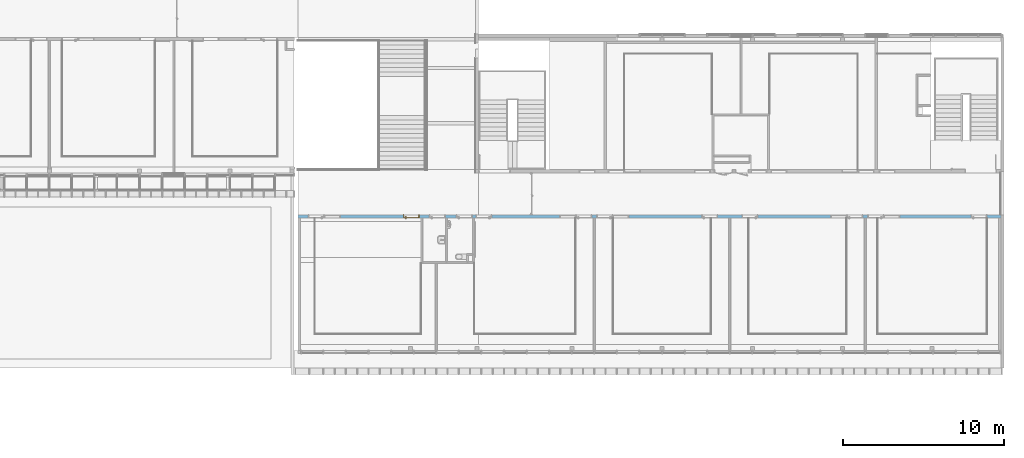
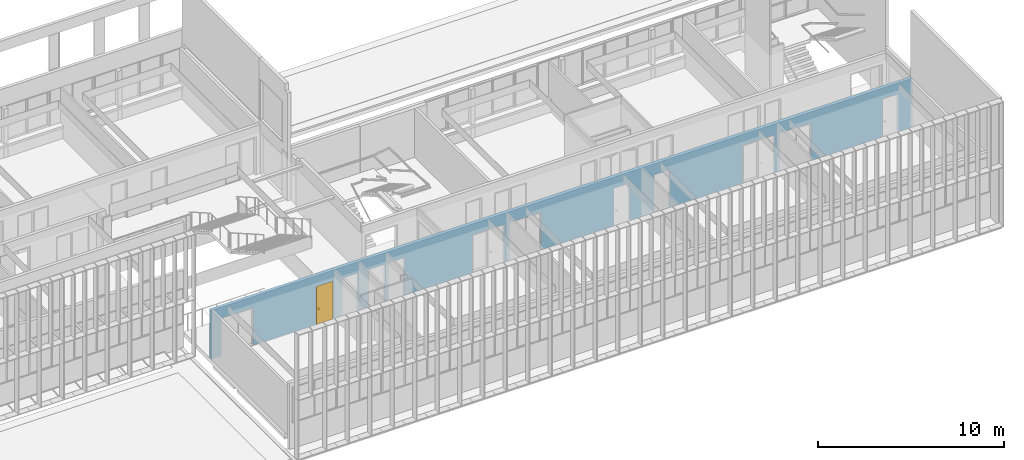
# One storey, part 75 of 106: 1 door, 18 openings, plus 1 element that does not belong to this part.
"""IFC2X3 building model written with IfcOpenShell, lengths in centimetres."""

from ifc_helpers import new_model, entity, si_unit, converted_unit, derived_unit, direction, frame, frame_2d, origin, place, context, subcontext, project, spatial, polyline, rectangle, extrude, clip, bounded_halfspace, faceted_brep, source, transform, mapped, material, material_list, layer, layer_set, layer_usage, type_object, type_shapes, element, fill, save


model = new_model("IFC2X3")

# Units and contexts
model_context = context("Model", 3, precision=0.001, world=origin(), true_north=direction((6.12303176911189e-17, 1.0)))
body_context = subcontext(model_context, "Body", "Model", "MODEL_VIEW")
ifc_project = project(units=[si_unit("LENGTHUNIT", "METRE", prefix="CENTI"), si_unit("AREAUNIT", "SQUARE_METRE"), si_unit("VOLUMEUNIT", "CUBIC_METRE"), converted_unit("PLANEANGLEUNIT", "DEGREE", entity("IfcRatioMeasure", 0.0174532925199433), si_unit("PLANEANGLEUNIT", "RADIAN"), dimensions=[0, 0, 0, 0, 0, 0, 0]), si_unit("MASSUNIT", "GRAM", prefix="KILO"), derived_unit("MASSDENSITYUNIT", [(si_unit("MASSUNIT", "GRAM", prefix="KILO"), 1), (si_unit("LENGTHUNIT", "METRE"), -3)]), si_unit("TIMEUNIT", "SECOND"), si_unit("FREQUENCYUNIT", "HERTZ"), si_unit("THERMODYNAMICTEMPERATUREUNIT", "DEGREE_CELSIUS"), derived_unit("THERMALTRANSMITTANCEUNIT", [(si_unit("MASSUNIT", "GRAM", prefix="KILO"), 1), (si_unit("THERMODYNAMICTEMPERATUREUNIT", "KELVIN"), -1), (si_unit("TIMEUNIT", "SECOND"), -3)]), derived_unit("VOLUMETRICFLOWRATEUNIT", [(si_unit("LENGTHUNIT", "METRE"), 3), (si_unit("TIMEUNIT", "SECOND"), -1)]), si_unit("ELECTRICCURRENTUNIT", "AMPERE"), si_unit("ELECTRICVOLTAGEUNIT", "VOLT"), si_unit("POWERUNIT", "WATT"), si_unit("FORCEUNIT", "NEWTON", prefix="KILO"), si_unit("ILLUMINANCEUNIT", "LUX"), si_unit("LUMINOUSFLUXUNIT", "LUMEN"), si_unit("LUMINOUSINTENSITYUNIT", "CANDELA"), derived_unit("USERDEFINED", [(si_unit("MASSUNIT", "GRAM", prefix="KILO"), -1), (si_unit("LENGTHUNIT", "METRE"), -2), (si_unit("TIMEUNIT", "SECOND"), 3), (si_unit("LUMINOUSFLUXUNIT", "LUMEN"), 1)]), derived_unit("LINEARVELOCITYUNIT", [(si_unit("LENGTHUNIT", "METRE"), 1), (si_unit("TIMEUNIT", "SECOND"), -1)]), si_unit("PRESSUREUNIT", "PASCAL"), derived_unit("USERDEFINED", [(si_unit("LENGTHUNIT", "METRE"), -2), (si_unit("MASSUNIT", "GRAM", prefix="KILO"), 1), (si_unit("TIMEUNIT", "SECOND"), -2)])], contexts=[model_context])

# Site, building, storey
site_placement = place(None, frame((-2781.94577612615, 7442.24238424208, 0.0)))
site = spatial("IfcSite", under=ifc_project, at=site_placement, Name="Default", CompositionType="ELEMENT")
building_placement = place(site_placement, origin())
building = spatial("IfcBuilding", under=site, at=building_placement, CompositionType="ELEMENT")
storey_placement = place(building_placement, frame((0.0, 0.0, 422.0)))
storey = spatial("IfcBuildingStorey", under=building, at=storey_placement, Name="Toiture - Cuisine", CompositionType="ELEMENT", Elevation=421.999999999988)

# Wall, openings, door
ifc_material_1 = material(Name="01 - Maçonnerie")
ifc_layer = layer(ifc_material_1, 20.0)
ifc_layer_set = layer_set([ifc_layer], Name="Mur de base:04 - Structure - béton - 20cm")
ifc_layer_usage = layer_usage(ifc_layer_set, "AXIS2", "NEGATIVE", 10.0)
wall_type = type_object("IfcWallType", Name="Mur de base:04 - Structure - béton - 20cm", PredefinedType="STANDARD", material=ifc_layer_set)
wall_placement = place(building_placement, frame((-4767.99987760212, -2200.15656731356, 422.0)))
wall = element("IfcWallStandardCase", 1, at=wall_placement, inside=storey, type_object=wall_type, material=ifc_layer_usage, Name="Mur de base:04 - Structure - béton - 20cm", ObjectType="Mur de base:04 - Structure - béton - 20cm", context=body_context, shape_type="Clipping", body=[
    clip(extrude(rectangle(XDim=4357.99999476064, YDim=19.9999999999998, at=frame_2d((2178.99999738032, -6.30606677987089e-14), x_axis=(-1.0, 0.0))), origin(), (0.0, 0.0, 1.0), 321.0), bounded_halfspace(frame((0.0, 10.0, 321.0), z_axis=(0.0, 0.0, -1.0), x_axis=(0.0, 1.0, 0.0)), True, frame((0.0, 10.0, 321.0)), polyline([(0.0, 0.0), (0.0, -20.0), (15.2999999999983, -20.0), (103.799999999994, -20.0), (105.799999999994, -20.0), (763.799999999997, -20.0), (773.799999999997, -20.0), (915.699994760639, -20.0), (925.699994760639, -20.0), (1082.69999476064, -20.0), (1092.69999476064, -20.0), (1720.69999476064, -20.0), (1722.69999476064, -20.0), (1832.69999476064, -20.0), (1842.69999476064, -20.0), (1952.69999476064, -20.0), (1954.69999476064, -20.0), (2560.69999476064, -20.0), (2562.69999476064, -20.0), (2672.69999476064, -20.0), (2682.69999476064, -20.0), (2792.69999476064, -20.0), (2794.69999476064, -20.0), (3400.69999476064, -20.0), (3402.69999476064, -20.0), (3512.69999476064, -20.0), (3522.69999476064, -20.0), (3592.69999476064, -20.0), (3594.69999476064, -20.0), (4270.69999476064, -20.0), (4272.69999476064, -20.0), (4342.69999476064, -20.0), (4358.0, -20.0), (4358.0, 0.0), (4356.0, 0.0), (1451.49999791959, 0.0), (1441.49999791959, 0.0), (1120.0, 0.0), (0.0, 0.0)]))),
])
opening_1_placement = place(wall_placement, origin())
element("IfcOpeningElement", 2, at=opening_1_placement, cuts=wall, Name="Mur de base:04 - Structure - béton - 20cm", ObjectType="Opening", context=body_context, shape_type="SweptSolid", body=[
    extrude(rectangle(XDim=270.0, YDim=20.0, at=frame_2d((0.0, 4.2632564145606e-14), x_axis=(0.0, 1.0))), frame((4368.0, 10.0, 135.0), z_axis=(0.0, 1.0, 0.0), x_axis=(1.0, 0.0, 0.0)), (0.0, 0.0, 1.0), 260.077533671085),
])
opening_2_placement = place(wall_placement, frame((4272.69999476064, 10.0, 0.0)))
element("IfcOpeningElement", 3, at=opening_2_placement, cuts=wall, Name="Int. Simple:PV (0.93m x 2.50m):1", ObjectType="Opening", context=body_context, shape_type="SweptSolid", body=[
    extrude(rectangle(XDim=248.500000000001, YDim=99.9999999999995, at=frame_2d((124.250000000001, 50.0), x_axis=(1.0, 0.0))), frame((0.0, 0.0, 0.0), z_axis=(0.0, -1.0, 0.0), x_axis=(0.0, 0.0, 1.0)), (0.0, 0.0, 1.0), 20.0),
])
opening_3_placement = place(wall_placement, frame((3632.69999476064, 10.0, 0.0)))
element("IfcOpeningElement", 4, at=opening_3_placement, cuts=wall, Name="Int. Simple:PV (0.93m x 2.50m):1", ObjectType="Opening", context=body_context, shape_type="SweptSolid", body=[
    extrude(rectangle(XDim=248.500000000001, YDim=99.9999999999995, at=frame_2d((124.250000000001, 49.9999999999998), x_axis=(1.0, 0.0))), frame((0.0, 0.0, 0.0), z_axis=(0.0, -1.0, 0.0), x_axis=(0.0, 0.0, 1.0)), (0.0, 0.0, 1.0), 20.0),
])
opening_4_placement = place(wall_placement, frame((3502.69999476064, 10.0, 0.0)))
element("IfcOpeningElement", 5, at=opening_4_placement, cuts=wall, Name="Int. Simple:PV (0.93m x 2.50m):1", ObjectType="Opening", context=body_context, shape_type="SweptSolid", body=[
    extrude(rectangle(XDim=248.500000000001, YDim=99.9999999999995, at=frame_2d((124.250000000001, 49.9999999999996), x_axis=(1.0, 0.0))), frame((0.0, 0.0, 0.0), z_axis=(0.0, -1.0, 0.0), x_axis=(0.0, 0.0, 1.0)), (0.0, 0.0, 1.0), 20.0),
])
opening_5_placement = place(wall_placement, frame((2852.69999476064, 10.0, 0.0)))
element("IfcOpeningElement", 6, at=opening_5_placement, cuts=wall, Name="Int. Simple:PV (0.93m x 2.50m):1", ObjectType="Opening", context=body_context, shape_type="SweptSolid", body=[
    extrude(rectangle(XDim=248.500000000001, YDim=99.9999999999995, at=frame_2d((124.250000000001, 49.9999999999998), x_axis=(1.0, 0.0))), frame((0.0, 0.0, 0.0), z_axis=(0.0, -1.0, 0.0), x_axis=(0.0, 0.0, 1.0)), (0.0, 0.0, 1.0), 20.0),
])
opening_6_placement = place(wall_placement, frame((2602.69999476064, 10.0, 0.0)))
element("IfcOpeningElement", 7, at=opening_6_placement, cuts=wall, Name="Int. Simple:PV (0.93m x 2.50m):1", ObjectType="Opening", context=body_context, shape_type="SweptSolid", body=[
    extrude(rectangle(XDim=248.500000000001, YDim=99.9999999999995, at=frame_2d((124.250000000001, 49.9999999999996), x_axis=(1.0, 0.0))), frame((0.0, 0.0, 0.0), z_axis=(0.0, -1.0, 0.0), x_axis=(0.0, 0.0, 1.0)), (0.0, 0.0, 1.0), 20.0),
])
opening_7_placement = place(wall_placement, frame((1952.69999476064, 10.0, 0.0)))
element("IfcOpeningElement", 8, at=opening_7_placement, cuts=wall, Name="Int. Simple:PV (0.93m x 2.50m):1", ObjectType="Opening", context=body_context, shape_type="SweptSolid", body=[
    extrude(rectangle(XDim=248.500000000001, YDim=99.9999999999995, at=frame_2d((124.250000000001, 49.9999999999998), x_axis=(1.0, 0.0))), frame((0.0, 0.0, 0.0), z_axis=(0.0, -1.0, 0.0), x_axis=(0.0, 0.0, 1.0)), (0.0, 0.0, 1.0), 20.0),
])
opening_8_placement = place(wall_placement, frame((1822.69999476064, 10.0, 0.0)))
element("IfcOpeningElement", 9, at=opening_8_placement, cuts=wall, Name="Int. Simple:PV (0.93m x 2.50m):1", ObjectType="Opening", context=body_context, shape_type="SweptSolid", body=[
    extrude(rectangle(XDim=248.500000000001, YDim=99.9999999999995, at=frame_2d((124.250000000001, 49.9999999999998), x_axis=(1.0, 0.0))), frame((0.0, 0.0, 0.0), z_axis=(0.0, -1.0, 0.0), x_axis=(0.0, 0.0, 1.0)), (0.0, 0.0, 1.0), 20.0),
])
opening_9_placement = place(wall_placement, frame((1202.69999476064, 10.0, 0.0)))
element("IfcOpeningElement", 10, at=opening_9_placement, cuts=wall, Name="Int. Simple:PV (0.93m x 2.50m):1", ObjectType="Opening", context=body_context, shape_type="SweptSolid", body=[
    extrude(rectangle(XDim=248.500000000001, YDim=99.9999999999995, at=frame_2d((124.250000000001, 49.9999999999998), x_axis=(1.0, 0.0))), frame((0.0, 0.0, 0.0), z_axis=(0.0, -1.0, 0.0), x_axis=(0.0, 0.0, 1.0)), (0.0, 0.0, 1.0), 20.0),
])
opening_10_placement = place(wall_placement, frame((1081.19999476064, 10.0, 0.0)))
element("IfcOpeningElement", 11, at=opening_10_placement, cuts=wall, Name="Int. Simple:PP simple (0.93m x 2.50m):1", ObjectType="Opening", context=body_context, shape_type="SweptSolid", body=[
    extrude(rectangle(XDim=248.500000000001, YDim=99.9999999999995, at=frame_2d((124.250000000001, 49.9999999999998), x_axis=(1.0, 0.0))), frame((0.0, 0.0, 0.0), z_axis=(0.0, -1.0, 0.0), x_axis=(0.0, 0.0, 1.0)), (0.0, 0.0, 1.0), 20.0),
])
opening_11_placement = place(wall_placement, frame((753.799999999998, 10.0, 0.0)))
opening_11 = element("IfcOpeningElement", 12, at=opening_11_placement, cuts=wall, Name="Int. Simple:PV (0.93m x 2.50m):1", ObjectType="Opening", context=body_context, shape_type="SweptSolid", body=[
    extrude(rectangle(XDim=248.500000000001, YDim=99.9999999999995, at=frame_2d((124.250000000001, 50.0), x_axis=(1.0, 0.0))), frame((0.0, 0.0, 0.0), z_axis=(0.0, -1.0, 0.0), x_axis=(0.0, 0.0, 1.0)), (0.0, 0.0, 1.0), 20.0),
])
opening_12_placement = place(wall_placement, frame((163.799999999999, 10.0, 0.0)))
element("IfcOpeningElement", 13, at=opening_12_placement, cuts=wall, Name="Int. Simple:PV (0.93m x 2.50m):1", ObjectType="Opening", context=body_context, shape_type="SweptSolid", body=[
    extrude(rectangle(XDim=248.500000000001, YDim=99.9999999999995, at=frame_2d((124.250000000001, 49.9999999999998), x_axis=(1.0, 0.0))), frame((0.0, 0.0, 0.0), z_axis=(0.0, -1.0, 0.0), x_axis=(0.0, 0.0, 1.0)), (0.0, 0.0, 1.0), 20.0),
])
opening_13_placement = place(wall_placement, frame((263.799999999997, 10.0, 0.0)))
element("IfcOpeningElement", 14, at=opening_13_placement, cuts=wall, Name="châssis intérieur vitré:châssis intérieur vitré (h=270) R+1:1", ObjectType="Opening", context=body_context, shape_type="SweptSolid", body=[
    extrude(rectangle(XDim=250.0, YDim=99.9999999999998, at=frame_2d((125.0, 49.9999999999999), x_axis=(1.0, 0.0))), frame((0.0, 0.0, 0.0), z_axis=(0.0, -1.0, 0.0), x_axis=(0.0, 0.0, 1.0)), (0.0, 0.0, 1.0), 20.0),
])
opening_14_placement = place(wall_placement, frame((1722.69999476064, 10.0, 0.0)))
element("IfcOpeningElement", 15, at=opening_14_placement, cuts=wall, Name="châssis intérieur vitré:châssis intérieur vitré (h=270) R+1:1", ObjectType="Opening", context=body_context, shape_type="SweptSolid", body=[
    extrude(rectangle(XDim=250.0, YDim=99.9999999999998, at=frame_2d((125.0, 49.9999999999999), x_axis=(1.0, 0.0))), frame((0.0, 0.0, 0.0), z_axis=(0.0, -1.0, 0.0), x_axis=(0.0, 0.0, 1.0)), (0.0, 0.0, 1.0), 20.0),
])
opening_15_placement = place(wall_placement, frame((2052.69999476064, 10.0, 0.0)))
element("IfcOpeningElement", 16, at=opening_15_placement, cuts=wall, Name="châssis intérieur vitré:châssis intérieur vitré (h=270) R+1:1", ObjectType="Opening", context=body_context, shape_type="SweptSolid", body=[
    extrude(rectangle(XDim=250.0, YDim=99.9999999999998, at=frame_2d((125.0, 49.9999999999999), x_axis=(1.0, 0.0))), frame((0.0, 0.0, 0.0), z_axis=(0.0, -1.0, 0.0), x_axis=(0.0, 0.0, 1.0)), (0.0, 0.0, 1.0), 20.0),
])
opening_16_placement = place(wall_placement, frame((3402.69999476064, 10.0, 0.0)))
element("IfcOpeningElement", 17, at=opening_16_placement, cuts=wall, Name="châssis intérieur vitré:châssis intérieur vitré (h=270) R+1:1", ObjectType="Opening", context=body_context, shape_type="SweptSolid", body=[
    extrude(rectangle(XDim=250.0, YDim=99.9999999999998, at=frame_2d((125.0, 49.9999999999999), x_axis=(1.0, 0.0))), frame((0.0, 0.0, 0.0), z_axis=(0.0, -1.0, 0.0), x_axis=(0.0, 0.0, 1.0)), (0.0, 0.0, 1.0), 20.0),
])
opening_17_placement = place(wall_placement, frame((3732.69999476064, 10.0, 0.0)))
element("IfcOpeningElement", 18, at=opening_17_placement, cuts=wall, Name="châssis intérieur vitré:châssis intérieur vitré (h=270) R+1:1", ObjectType="Opening", context=body_context, shape_type="SweptSolid", body=[
    extrude(rectangle(XDim=250.0, YDim=99.9999999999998, at=frame_2d((125.0, 49.9999999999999), x_axis=(1.0, 0.0))), frame((0.0, 0.0, 0.0), z_axis=(0.0, -1.0, 0.0), x_axis=(0.0, 0.0, 1.0)), (0.0, 0.0, 1.0), 20.0),
])
opening_18_placement = place(wall_placement, frame((914.199994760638, 10.0, 0.0)))
element("IfcOpeningElement", 19, at=opening_18_placement, cuts=wall, Name="Int. Simple:PP simple (0.93m x 2.50m):1", ObjectType="Opening", context=body_context, shape_type="SweptSolid", body=[
    extrude(rectangle(XDim=248.500000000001, YDim=99.9999999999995, at=frame_2d((124.250000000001, 50.0), x_axis=(1.0, 0.0))), frame((0.0, 0.0, 0.0), z_axis=(0.0, -1.0, 0.0), x_axis=(0.0, 0.0, 1.0)), (0.0, 0.0, 1.0), 20.0),
])
ifc_material_2 = material(Name="Finition Peinture - Blanc satiné")
ifc_material_3 = material(Name="Bois - Panneau de porte")
ifc_material_4 = material(Name="Bois - Cadre de porte")
ifc_material_list_1 = material_list([ifc_material_2, ifc_material_3, ifc_material_4])
ifc_material_list_2 = material_list([ifc_material_2, ifc_material_3, ifc_material_4])
door_style = type_object("IfcDoorStyle", Name="PV (0.93m x 2.50m)", ConstructionType="NOTDEFINED", OperationType="SINGLE_SWING_LEFT", ParameterTakesPrecedence=False, Sizeable=False, material=ifc_material_list_2)
shared_shape = source(origin(), body_context, "Body", "Brep", [
    faceted_brep([(10.5352761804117, -0.500000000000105, 86.6003983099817), (11.5000000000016, -0.500000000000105, 87.0), (11.5000000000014, -0.500000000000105, 108.0), (10.5352761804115, -0.500000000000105, 108.399601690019), (9.50000000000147, -0.500000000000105, 108.535898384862), (8.46472381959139, -0.500000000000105, 108.399601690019), (7.50000000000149, -0.500000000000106, 108.0), (7.50000000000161, -0.500000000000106, 87.0), (8.46472381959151, -0.500000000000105, 86.6003983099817), (9.50000000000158, -0.500000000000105, 86.464101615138), (10.5352761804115, 0.0, 108.399601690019), (11.5000000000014, 0.0, 108.0), (11.5000000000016, 0.0, 87.0), (10.5352761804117, 0.0, 86.6003983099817), (9.50000000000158, 0.0, 86.464101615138), (8.46472381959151, 0.0, 86.6003983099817), (7.50000000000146, 0.0, 87.0), (7.50000000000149, 0.0, 108.0), (8.46472381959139, 0.0, 108.399601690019), (9.50000000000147, 0.0, 108.535898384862)], [[[0, 1, 2, 3, 4, 5, 6, 7, 8, 9]], [[10, 11, 12, 13, 14, 15, 16, 17, 18, 19]], [[16, 15, 8, 7]], [[8, 15, 14, 9]], [[14, 13, 0, 9]], [[13, 12, 1, 0]], [[2, 1, 12, 11]], [[11, 10, 3, 2]], [[3, 10, 19, 4]], [[19, 18, 5, 4]], [[18, 17, 6, 5]], [[7, 6, 17, 16]]]),
    faceted_brep([(10.5352761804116, 4.0, 86.6003983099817), (11.5000000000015, 4.0, 87.0), (11.5000000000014, 4.0, 108.0), (10.5352761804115, 4.0, 108.399601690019), (9.50000000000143, 4.0, 108.535898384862), (8.46472381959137, 4.0, 108.399601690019), (7.50000000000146, 4.0, 108.0), (7.50000000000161, 4.0, 87.0), (8.46472381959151, 4.0, 86.6003983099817), (9.50000000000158, 4.0, 86.464101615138), (10.5352761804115, 4.49999999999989, 108.399601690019), (11.5000000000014, 4.49999999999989, 108.0), (11.5000000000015, 4.49999999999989, 87.0), (10.5352761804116, 4.49999999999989, 86.6003983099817), (9.50000000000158, 4.49999999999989, 86.464101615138), (8.46472381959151, 4.49999999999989, 86.6003983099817), (7.50000000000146, 4.49999999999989, 87.0), (7.50000000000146, 4.49999999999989, 108.0), (8.46472381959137, 4.49999999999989, 108.399601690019), (9.50000000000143, 4.49999999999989, 108.535898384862)], [[[0, 1, 2, 3, 4, 5, 6, 7, 8, 9]], [[10, 11, 12, 13, 14, 15, 16, 17, 18, 19]], [[11, 10, 3, 2]], [[3, 10, 19, 4]], [[19, 18, 5, 4]], [[18, 17, 6, 5]], [[7, 6, 17, 16]], [[16, 15, 8, 7]], [[8, 15, 14, 9]], [[14, 13, 0, 9]], [[13, 12, 1, 0]], [[2, 1, 12, 11]]]),
    faceted_brep([(9.29747013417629, -0.500000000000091, 100.778044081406), (9.70252986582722, -0.500000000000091, 100.778044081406), (10.1000000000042, -0.500000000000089, 100.699999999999), (10.1000000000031, -0.500000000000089, 99.3000000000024), (9.7025298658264, -0.500000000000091, 99.2219559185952), (9.29747013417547, -0.500000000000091, 99.221955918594), (8.8999999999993, -0.500000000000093, 99.2999999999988), (8.89999999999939, -0.500000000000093, 100.7), (8.89999999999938, -3.26509507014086, 100.7), (9.29747013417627, -3.10045754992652, 100.778044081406), (10.9023585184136, -4.70534593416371, 100.778044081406), (11.0701397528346, -4.30028620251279, 100.778044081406), (9.7025298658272, -2.93267631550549, 100.778044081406), (10.1000000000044, -2.76803879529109, 100.7), (10.1000000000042, -2.76803879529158, 99.3000000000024), (9.7025298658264, -2.93267631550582, 99.2219559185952), (11.0701397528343, -4.30028620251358, 99.2219559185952), (10.9023585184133, -4.70534593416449, 99.221955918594), (9.29747013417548, -3.10045754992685, 99.221955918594), (8.89999999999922, -3.26509507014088, 99.2999999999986), (10.7377209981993, -5.10281606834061, 100.7), (11.2347772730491, -3.90281606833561, 100.7), (11.2347772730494, -3.90281606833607, 99.3000000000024), (10.7377209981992, -5.10281606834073, 99.2999999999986), (19.5018640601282, -5.1028160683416, 99.2999999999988), (19.5018640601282, -4.70534593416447, 99.221955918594), (19.5018640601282, -4.30028620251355, 99.2219559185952), (19.5018640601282, -3.90281606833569, 99.3000000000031), (19.5018640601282, -3.90281606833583, 100.7), (19.5018640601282, -4.30028620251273, 100.778044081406), (19.5018640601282, -4.70534593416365, 100.778044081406), (19.5018640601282, -5.10281606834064, 100.699999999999), (14.7307697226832, -5.10281606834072, 100.7), (15.2860019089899, -4.5028160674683, 100.78786867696), (15.3683206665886, -3.9028160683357, 100.7), (15.3683206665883, -3.90281606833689, 99.3000000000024), (15.2860018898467, -4.50281607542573, 99.2121313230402), (14.7307700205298, -5.10281606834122, 99.2999999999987)], [[[0, 1, 2, 3, 4, 5, 6, 7]], [[8, 9, 0, 7]], [[9, 10, 11, 12, 1, 0]], [[12, 13, 2, 1]], [[3, 2, 13, 14]], [[14, 15, 4, 3]], [[15, 16, 17, 18, 5, 4]], [[18, 19, 6, 5]], [[7, 6, 19, 8]], [[20, 10, 9, 8]], [[11, 21, 13, 12]], [[14, 13, 21, 22]], [[22, 16, 15, 14]], [[17, 23, 19, 18]], [[8, 19, 23, 20]], [[24, 25, 26, 27, 28, 29, 30, 31]], [[32, 30, 33]], [[31, 30, 32]], [[10, 20, 32]], [[33, 34, 11]], [[21, 11, 34]], [[34, 29, 28]], [[30, 29, 33]], [[29, 34, 33]], [[10, 32, 33]], [[10, 33, 11]], [[22, 21, 34, 28, 27, 35]], [[35, 26, 36]], [[37, 36, 25]], [[22, 35, 16]], [[35, 27, 26]], [[24, 37, 25]], [[23, 17, 37]], [[37, 17, 36]], [[17, 16, 36]], [[16, 35, 36]], [[25, 36, 26]], [[20, 23, 37, 24, 31, 32]]]),
    faceted_brep([(9.29747013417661, 4.49999999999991, 100.778044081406), (8.89999999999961, 4.4999999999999, 100.7), (8.89999999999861, 4.4999999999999, 99.2999999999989), (9.29747013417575, 4.49999999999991, 99.221955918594), (9.70252986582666, 4.49999999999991, 99.2219559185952), (10.1000000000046, 4.49999999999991, 99.3000000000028), (10.1000000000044, 4.49999999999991, 100.7), (9.70252986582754, 4.49999999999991, 100.778044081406), (10.1000000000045, 6.7485204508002, 99.3000000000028), (10.1000000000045, 6.74852045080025, 100.7), (9.70252986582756, 6.91315797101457, 100.778044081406), (11.083890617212, 8.29451872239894, 100.778044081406), (10.916109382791, 8.69957845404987, 100.778044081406), (9.29747013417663, 7.0809392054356, 100.778044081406), (8.89999999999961, 7.24557672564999, 100.7), (8.89999999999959, 7.2455767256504, 99.2999999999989), (9.29747013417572, 7.08093920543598, 99.221955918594), (10.9161093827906, 8.69957845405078, 99.221955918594), (11.0838906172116, 8.29451872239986, 99.2219559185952), (9.70252986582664, 6.91315797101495, 99.2219559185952), (11.2485281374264, 7.89704858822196, 99.3000000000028), (11.2485281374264, 7.89704858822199, 100.7), (10.7514718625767, 9.09704858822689, 100.7), (10.7514718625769, 9.0970485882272, 99.2999999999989), (19.5045783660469, 7.89704858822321, 99.3000000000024), (19.5045783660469, 8.29451872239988, 99.2219559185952), (19.5045783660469, 8.6995784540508, 99.221955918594), (19.5045783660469, 9.09704858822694, 99.2999999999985), (19.5045783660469, 9.09704858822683, 100.7), (19.5045783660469, 8.69957845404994, 100.778044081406), (19.5045783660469, 8.29451872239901, 100.778044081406), (19.5045783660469, 7.89704858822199, 100.7), (15.3765520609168, 7.89704858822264, 99.3000000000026), (15.3765532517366, 7.89704858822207, 100.7), (15.294234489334, 8.49704858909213, 100.78786867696), (14.7445205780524, 9.09704858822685, 100.7), (14.7445204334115, 9.09704858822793, 99.2999999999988), (15.2942345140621, 8.49704858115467, 99.2121313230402)], [[[0, 1, 2, 3, 4, 5, 6, 7]], [[6, 5, 8, 9]], [[9, 10, 7, 6]], [[10, 11, 12, 13, 0, 7]], [[13, 14, 1, 0]], [[2, 1, 14, 15]], [[15, 16, 3, 2]], [[16, 17, 18, 19, 4, 3]], [[19, 8, 5, 4]], [[9, 8, 20, 21]], [[21, 11, 10, 9]], [[12, 22, 14, 13]], [[15, 14, 22, 23]], [[23, 17, 16, 15]], [[18, 20, 8, 19]], [[24, 25, 26, 27, 28, 29, 30, 31]], [[21, 20, 32, 24, 31, 33]], [[33, 30, 34]], [[35, 34, 29]], [[21, 33, 11]], [[33, 31, 30]], [[28, 35, 29]], [[22, 12, 35]], [[35, 12, 34]], [[12, 11, 34]], [[11, 33, 34]], [[29, 34, 30]], [[22, 35, 28, 27, 36, 23]], [[36, 26, 37]], [[27, 26, 36]], [[17, 23, 36]], [[37, 32, 18]], [[20, 18, 32]], [[32, 25, 24]], [[26, 25, 37]], [[25, 32, 37]], [[17, 36, 37]], [[17, 37, 18]]]),
    faceted_brep([(3.50000000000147, 4.0, 245.0), (96.5000000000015, 4.0, 245.0), (96.5000000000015, 4.0, 0.0), (3.50000000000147, 4.0, 0.0), (3.50000000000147, 0.0, 245.0), (3.50000000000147, 0.0, 0.0), (96.5000000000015, 0.0, 0.0), (96.5000000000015, 0.0, 245.0)], [[[0, 1, 2, 3]], [[4, 5, 6, 7]], [[1, 0, 4, 7]], [[2, 1, 7, 6]], [[3, 2, 6, 5]], [[0, 3, 5, 4]]]),
    faceted_brep([(0.0, 20.0, 0.0), (-1.50000000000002, 20.0, 0.0), (-1.50000000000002, 20.5000000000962, 0.0), (5.0, 20.5000000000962, 0.0), (5.0, 4.0, 0.0), (3.50000000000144, 4.0, 0.0), (3.50000000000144, -0.500000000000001, 0.0), (-1.50000000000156, -0.500000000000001, 0.0), (-1.50000000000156, 0.0, 0.0), (0.0, 0.0, 0.0), (0.0, 20.0, 248.500000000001), (100.0, 20.0, 248.500000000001), (100.0, 20.0, 0.0), (101.5, 20.0, 0.0), (101.5, 20.0, 250.0), (-1.50000000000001, 20.0, 250.0), (-1.50000000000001, 20.5000000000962, 250.0), (101.5, 20.5000000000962, 250.0), (101.5, 20.5000000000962, 0.0), (95.0, 20.5000000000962, 0.0), (95.0, 20.5000000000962, 243.5), (5.0, 20.5000000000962, 243.5), (5.0, 4.0, 243.5), (95.0, 4.0, 243.5), (95.0, 4.0, 0.0), (96.499999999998, 4.0, 0.0), (96.499999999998, 4.0, 245.0), (3.50000000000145, 4.0, 245.0), (3.50000000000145, -0.500000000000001, 245.0), (96.499999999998, -0.500000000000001, 245.0), (96.499999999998, -0.500000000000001, 0.0), (101.500000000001, -0.500000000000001, 0.0), (101.500000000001, -0.500000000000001, 250.0), (-1.50000000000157, -0.500000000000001, 250.0), (-1.50000000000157, 0.0, 250.0), (101.500000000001, 0.0, 250.0), (101.500000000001, 0.0, 0.0), (100.0, 0.0, 0.0), (100.0, 0.0, 248.500000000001), (0.0, 0.0, 248.500000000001)], [[[0, 1, 2, 3, 4, 5, 6, 7, 8, 9]], [[1, 0, 10, 11, 12, 13, 14, 15]], [[2, 1, 15, 16]], [[3, 2, 16, 17, 18, 19, 20, 21]], [[3, 21, 22, 4]], [[5, 4, 22, 23, 24, 25, 26, 27]], [[5, 27, 28, 6]], [[7, 6, 28, 29, 30, 31, 32, 33]], [[8, 7, 33, 34]], [[9, 8, 34, 35, 36, 37, 38, 39]], [[0, 9, 39, 10]], [[11, 38, 37, 12]], [[12, 37, 36, 31, 30, 25, 24, 19, 18, 13]], [[17, 14, 13, 18]], [[23, 20, 19, 24]], [[29, 26, 25, 30]], [[35, 32, 31, 36]], [[16, 15, 14, 17]], [[22, 21, 20, 23]], [[28, 27, 26, 29]], [[34, 33, 32, 35]], [[10, 39, 38, 11]]]),
])
type_shapes(door_style, [shared_shape])
door_placement = place(opening_11_placement, frame((-100.0, -20.0, 0.0)))
door = element("IfcDoor", 20, at=door_placement, inside=storey, type_object=door_style, material=ifc_material_list_1, Name="Int. Simple:PV (0.93m x 2.50m)", ObjectType="Int. Simple:PV (0.93m x 2.50m)", OverallHeight=248.500000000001, OverallWidth=99.9999999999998, context=body_context, shape_type="MappedRepresentation", body=[
    mapped(shared_shape, transform((0.0, 0.0, 0.0), scale=1.0)),
])
fill(opening_11, door)

save(model, "model.ifc")
